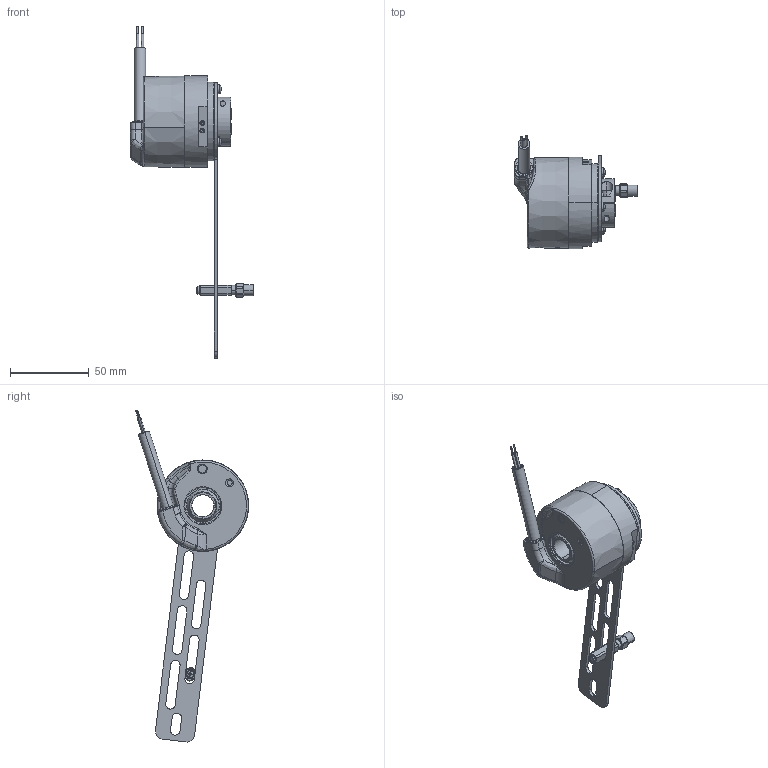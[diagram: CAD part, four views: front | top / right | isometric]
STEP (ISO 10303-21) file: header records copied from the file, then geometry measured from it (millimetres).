
FILE_DESCRIPTION (( 'STEP AP214' ), '1' );
FILE_NAME ('5834SIL.A5XE.XXXX.STEP', '2010-08-13T08:23:59', ( 'admin' ), ( 'Fritz Kübler GmbH' ), 'SwSTEP 2.0', 'SolidWorks 2009', '' );
FILE_SCHEMA (( 'AUTOMOTIVE_DESIGN' ));
Length unit declared in the file: millimetre
Products named in the file (1): 5834SIL.A5XE.XXXX
Bounding box: 78 x 71.81 x 210.53 mm (x, y, z)
Surface area: 33004.4 mm2 (no closed solid volume)
Topology: 0 solids, 18 shells, 368 faces, 1023 edges, 675 vertices
Faces by surface type: cylinder 127, plane 118, cone 64, torus 25, bspline 23, sphere 11
Entity records: 18610 total; most frequent: CARTESIAN_POINT 5066, DIRECTION 2095, ORIENTED_EDGE 1800, EDGE_CURVE 1021, AXIS2_PLACEMENT_3D 839, VERTEX_POINT 675, CIRCLE 493, EDGE_LOOP 429
